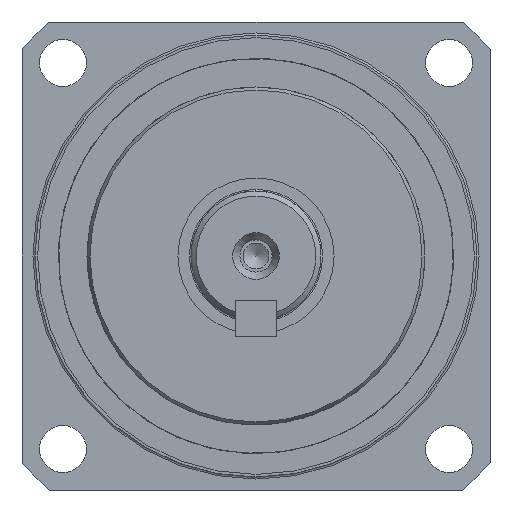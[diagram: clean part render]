
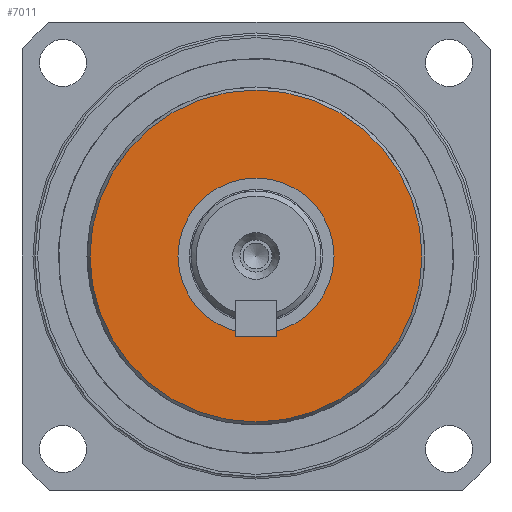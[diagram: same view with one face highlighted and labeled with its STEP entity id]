
A CAD part, left-side view. The second image highlights one B-rep face of the part: STEP entity #7011.
In plain terms, the highlighted planar face has unit normal (-1, 0, 0).
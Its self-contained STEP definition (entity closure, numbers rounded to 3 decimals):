
#646=FACE_BOUND('',#1944,.T.);
#1356=PLANE('',#7978);
#1526=FACE_OUTER_BOUND('',#1943,.T.);
#1943=EDGE_LOOP('',(#5241));
#1944=EDGE_LOOP('',(#5242,#5243));
#2514=CIRCLE('',#7974,31.923);
#2517=CIRCLE('',#7979,15.);
#2518=CIRCLE('',#7980,15.);
#3228=VERTEX_POINT('',#11902);
#3231=VERTEX_POINT('',#11912);
#3232=VERTEX_POINT('',#11913);
#4074=EDGE_CURVE('',#3228,#3228,#2514,.T.);
#4078=EDGE_CURVE('',#3231,#3232,#2517,.T.);
#4079=EDGE_CURVE('',#3232,#3231,#2518,.T.);
#5241=ORIENTED_EDGE('',*,*,#4074,.F.);
#5242=ORIENTED_EDGE('',*,*,#4078,.T.);
#5243=ORIENTED_EDGE('',*,*,#4079,.T.);
#7011=ADVANCED_FACE('',(#1526,#646),#1356,.T.);
#7974=AXIS2_PLACEMENT_3D('',#11904,#9339,#9340);
#7978=AXIS2_PLACEMENT_3D('',#11911,#9348,#9349);
#7979=AXIS2_PLACEMENT_3D('',#11914,#9350,#9351);
#7980=AXIS2_PLACEMENT_3D('',#11915,#9352,#9353);
#9339=DIRECTION('center_axis',(1.,0.,0.));
#9340=DIRECTION('ref_axis',(0.,-1.,0.));
#9348=DIRECTION('center_axis',(-1.,0.,0.));
#9349=DIRECTION('ref_axis',(0.,0.,1.));
#9350=DIRECTION('center_axis',(1.,0.,0.));
#9351=DIRECTION('ref_axis',(0.,0.,-1.));
#9352=DIRECTION('center_axis',(1.,0.,0.));
#9353=DIRECTION('ref_axis',(0.,0.,-1.));
#11902=CARTESIAN_POINT('',(0.,31.923,0.));
#11904=CARTESIAN_POINT('Origin',(0.,0.,0.));
#11911=CARTESIAN_POINT('Origin',(0.,32.5,0.));
#11912=CARTESIAN_POINT('',(0.,15.,0.));
#11913=CARTESIAN_POINT('',(0.,-15.,0.));
#11914=CARTESIAN_POINT('Origin',(0.,0.,0.));
#11915=CARTESIAN_POINT('Origin',(0.,0.,0.));
